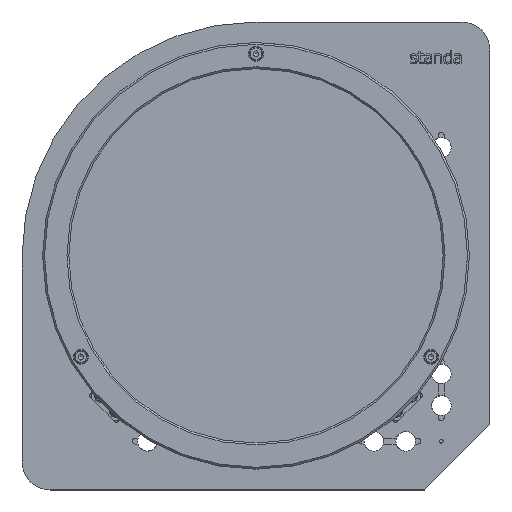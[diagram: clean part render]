
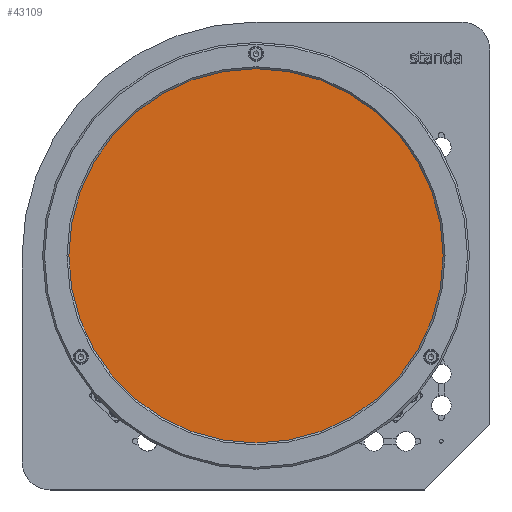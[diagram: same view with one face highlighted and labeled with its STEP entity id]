
A CAD part, top view. The second image highlights one B-rep face of the part: STEP entity #43109.
In plain terms, the highlighted planar face has unit normal (0, 0, 1).
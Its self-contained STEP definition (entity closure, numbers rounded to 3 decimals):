
#8026=PLANE($,#45904);
#9839=FACE_OUTER_BOUND($,#12397,.T.);
#12397=EDGE_LOOP($,(#28782));
#15030=CIRCLE($,#45905,100.);
#17095=VERTEX_POINT($,#62767);
#21646=EDGE_CURVE($,#17095,#17095,#15030,.T.);
#28782=ORIENTED_EDGE($,*,*,#21646,.T.);
#43109=ADVANCED_FACE($,(#9839),#8026,.F.);
#45904=AXIS2_PLACEMENT_3D($,#62766,#51049,#51050);
#45905=AXIS2_PLACEMENT_3D($,#62768,#51051,#51052);
#51049=DIRECTION('center_axis',(0.,0.,
-1.));
#51050=DIRECTION('ref_axis',(-0.997,-0.076,0.));
#51051=DIRECTION('center_axis',(0.,0.,
1.));
#51052=DIRECTION('ref_axis',(1.,0.,0.));
#62766=CARTESIAN_POINT('Origin',(0.,0.,
62.1));
#62767=CARTESIAN_POINT('',(-100.,0.,62.1));
#62768=CARTESIAN_POINT('Origin',(0.,0.,
62.1));
